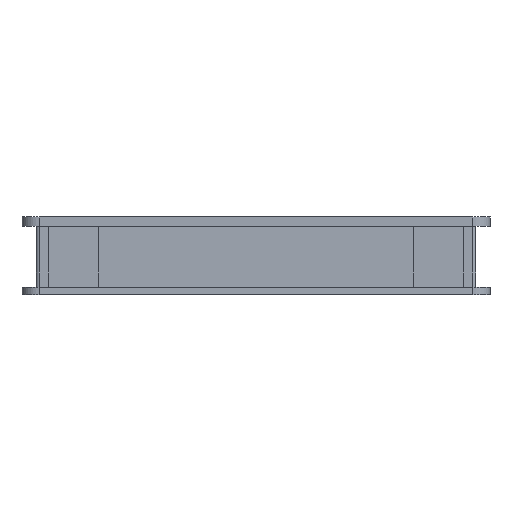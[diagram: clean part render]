
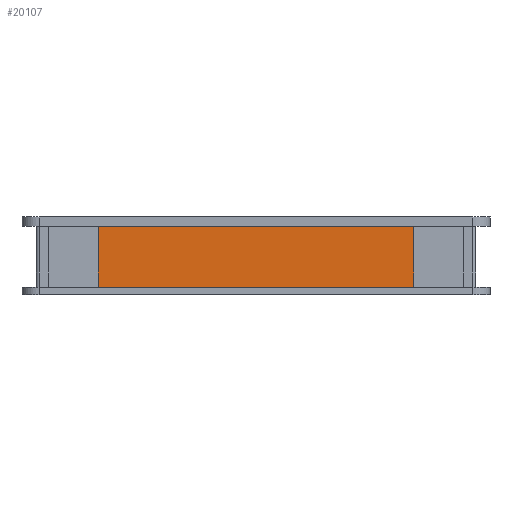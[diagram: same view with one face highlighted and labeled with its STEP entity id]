
A CAD part, left-side view. The second image highlights one B-rep face of the part: STEP entity #20107.
In plain terms, the highlighted planar face has unit normal (-1, 0, 0).
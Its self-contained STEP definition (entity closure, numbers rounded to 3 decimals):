
#166 = DIRECTION ( 'NONE',  ( 0., -1., 0. ) ) ;
#891 = LINE ( 'NONE', #20644, #19179 ) ;
#1200 = DIRECTION ( 'NONE',  ( 0., 0., 1. ) ) ;
#1461 = DIRECTION ( 'NONE',  ( 0., -1., 0. ) ) ;
#1488 = ORIENTED_EDGE ( 'NONE', *, *, #5192, .T. ) ;
#1495 = CARTESIAN_POINT ( 'NONE',  ( -425.983, 167.86, -92.045 ) ) ;
#4430 = ORIENTED_EDGE ( 'NONE', *, *, #8967, .T. ) ;
#4437 = FACE_OUTER_BOUND ( 'NONE', #9364, .T. ) ;
#5192 = EDGE_CURVE ( 'NONE', #14913, #10262, #5731, .T. ) ;
#5731 = LINE ( 'NONE', #1495, #17758 ) ;
#6075 = CARTESIAN_POINT ( 'NONE',  ( -425.983, -98.14, -92.045 ) ) ;
#6244 = ORIENTED_EDGE ( 'NONE', *, *, #7209, .T. ) ;
#7209 = EDGE_CURVE ( 'NONE', #10262, #16927, #891, .T. ) ;
#7905 = DIRECTION ( 'NONE',  ( 0., 0., -1. ) ) ;
#8135 = EDGE_CURVE ( 'NONE', #16927, #11605, #8801, .T. ) ;
#8801 = LINE ( 'NONE', #6075, #12526 ) ;
#8967 = EDGE_CURVE ( 'NONE', #11605, #14913, #10832, .T. ) ;
#9364 = EDGE_LOOP ( 'NONE', ( #1488, #6244, #12452, #4430 ) ) ;
#10262 = VERTEX_POINT ( 'NONE', #10619 ) ;
#10619 = CARTESIAN_POINT ( 'NONE',  ( -425.983, 167.86, -131.045 ) ) ;
#10832 = LINE ( 'NONE', #19351, #14608 ) ;
#11605 = VERTEX_POINT ( 'NONE', #12137 ) ;
#12114 = CARTESIAN_POINT ( 'NONE',  ( -425.983, 167.86, -92.045 ) ) ;
#12137 = CARTESIAN_POINT ( 'NONE',  ( -425.983, -98.14, -92.045 ) ) ;
#12452 = ORIENTED_EDGE ( 'NONE', *, *, #8135, .T. ) ;
#12526 = VECTOR ( 'NONE', #1200, 1000. ) ;
#13889 = CARTESIAN_POINT ( 'NONE',  ( -425.983, -98.14, -131.045 ) ) ;
#14608 = VECTOR ( 'NONE', #14628, 1000. ) ;
#14628 = DIRECTION ( 'NONE',  ( 0., 1., 0. ) ) ;
#14913 = VERTEX_POINT ( 'NONE', #12114 ) ;
#16193 = PLANE ( 'NONE',  #18688 ) ;
#16927 = VERTEX_POINT ( 'NONE', #13889 ) ;
#17758 = VECTOR ( 'NONE', #7905, 1000. ) ;
#17796 = CARTESIAN_POINT ( 'NONE',  ( -425.983, 34.86, -111.545 ) ) ;
#18688 = AXIS2_PLACEMENT_3D ( 'NONE', #17796, #19352, #166 ) ;
#19179 = VECTOR ( 'NONE', #1461, 1000. ) ;
#19351 = CARTESIAN_POINT ( 'NONE',  ( -425.983, -98.14, -92.045 ) ) ;
#19352 = DIRECTION ( 'NONE',  ( 1., 0., 0. ) ) ;
#20107 = ADVANCED_FACE ( 'NONE', ( #4437 ), #16193, .F. ) ;
#20644 = CARTESIAN_POINT ( 'NONE',  ( -425.983, -98.14, -131.045 ) ) ;
